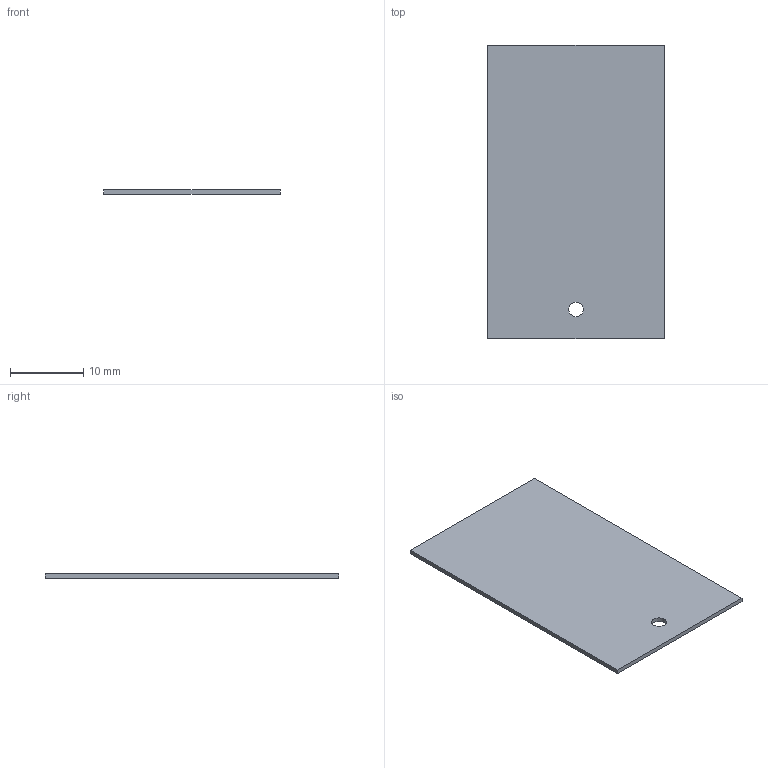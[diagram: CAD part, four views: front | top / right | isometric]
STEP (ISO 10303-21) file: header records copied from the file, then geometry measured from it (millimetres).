
FILE_DESCRIPTION(('Open CASCADE Model'),'2;1');
FILE_NAME('Open CASCADE Shape Model','2026-09-13T17:41:40',('Author'),( 'Open CASCADE'),'Open CASCADE STEP processor 7.8','Open CASCADE 7.8' ,'Unknown');
FILE_SCHEMA(('AUTOMOTIVE_DESIGN { 1 0 10303 214 1 1 1 1 }'));
Length unit declared in the file: millimetre
Products named in the file (1): Open CASCADE STEP translator 7.8 12
Bounding box: 24 x 40 x 0.6 mm (x, y, z)
Volume: 574.1 mm3; surface area: 1994.3 mm2
Topology: 1 solids, 1 shells, 7 faces, 15 edges, 10 vertices
Faces by surface type: plane 6, cylinder 1
Full cylindrical faces by diameter (mm): 2 x1
Entity records: 400 total; most frequent: CARTESIAN_POINT 63, DIRECTION 63, LINE 41, VECTOR 41, ORIENTED_EDGE 30, PCURVE 30, DEFINITIONAL_REPRESENTATION 30, EDGE_CURVE 15
